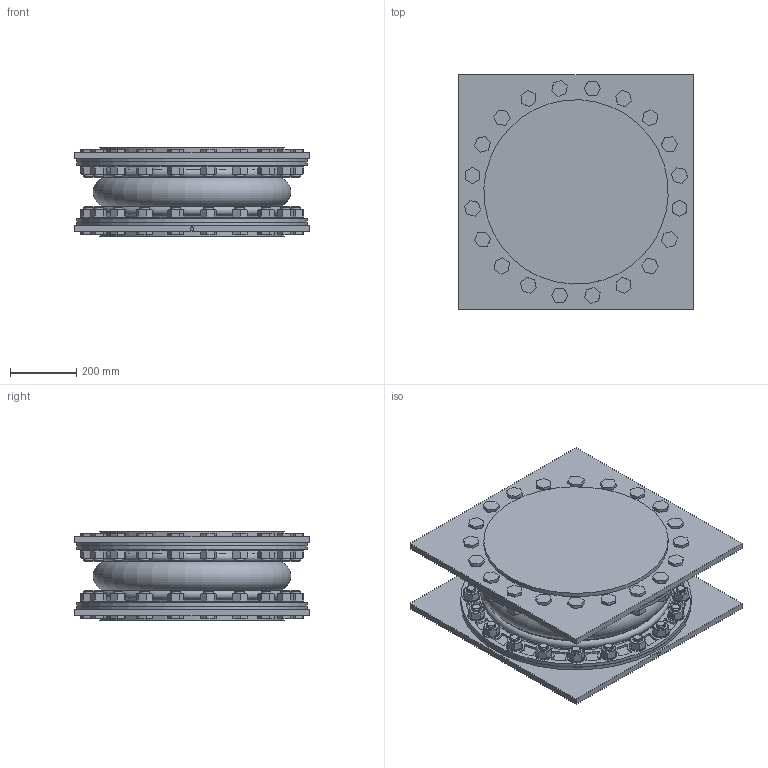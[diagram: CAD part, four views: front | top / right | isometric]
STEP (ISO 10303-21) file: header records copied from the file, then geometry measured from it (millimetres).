
FILE_DESCRIPTION(/* description */ (''),/* implementation_level */ '2;1');
FILE_NAME(/* name */ 'C:\Users\rramoutar\Desktop\New folder\451AS-20.stp',/* time_stamp */ '2016-01-15T14:44:09-05:00',/* author */ ('rramoutar'),/* organization */ ('Mason Industries Inc.'),/* preprocessor_version */ 'ST-DEVELOPER v15.6',/* originating_system */ 'Autodesk Inventor 2015',/* authorisation */ '');
FILE_SCHEMA (('CONFIG_CONTROL_DESIGN'));
Products named in the file (1): 451AS-20 (A-34239-1)
Bounding box: 711.2 x 711.2 x 266.7 mm (x, y, z)
Volume: 43309754.9 mm3; surface area: 6999324.3 mm2
Topology: 128 solids, 130 shells, 2675 faces, 5939 edges, 3606 vertices
Faces by surface type: plane 1073, cylinder 898, cone 646, torus 58
Full cylindrical faces by diameter (mm): 11.112 x1, 15.875 x4, 24.638 x40, 25.4 x1, 28.575 x40, 30.175 x40, 31.75 x360, 42.875 x40, 50.8 x40, 304.8 x1, 323.85 x1, 508 x2, 532.003 x2, 539.75 x2, 558.8 x2, 698.5 x2
Entity records: 70654 total; most frequent: CARTESIAN_POINT 13328, DIRECTION 11812, ORIENTED_EDGE 9946, AXIS2_PLACEMENT_3D 5133, EDGE_CURVE 4973, EDGE_LOOP 3982, VERTEX_POINT 3443, STYLED_ITEM 2803
